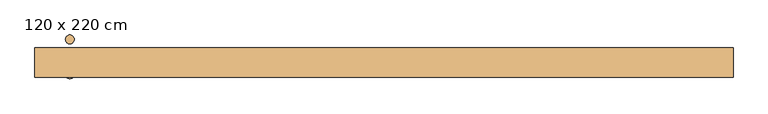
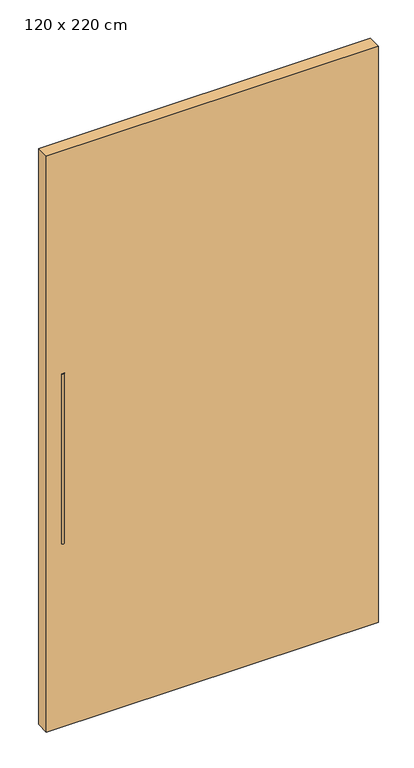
"""IFC4 building model written with IfcOpenShell, lengths in millimetres: door geometry, PUERTA ACCESO_PIVOT : 120 x 220 cm."""

from ifc_helpers import new_model, si_unit, point, frame, frame_2d, origin, origin_with_axes, place, context, project, spatial, polyline, circle_curve, trimmed, segment, composite_curve, outline, extrude, source, transform, mapped, element, save


def door_120_x_220_cm_93c824b4(model_context):
    return source(origin(), model_context, "Body", "SweptSolid", [
        extrude(outline(polyline([(-183.1334164, 70.0), (1016.8665836, 70.0), (1016.8665836, 20.0), (-183.1334164, 20.0), (-183.1334164, 70.0)])), origin_with_axes(), (0.0, 0.0, 1.0), 2200.0),
        extrude(outline(composite_curve([segment(trimmed(circle_curve(frame_2d((-123.1334164, 25.0)), 7.5172322), [point((-130.6506486, 25.0))], [point((-115.6161842, 25.0))], False, "CARTESIAN"), True, "CONTINUOUS"), segment(trimmed(circle_curve(frame_2d((-123.1334164, 25.0)), 7.5172322), [point((-115.6161842, 25.0))], [point((-130.6506486, 25.0))], False, "CARTESIAN"), True, "CONTINUOUS")], self_intersect=False)), frame((0.0, 0.0, 700.0), z_axis=(0.0, 0.0, 1.0), x_axis=(1.0, 0.0, 0.0)), (0.0, 0.0, 1.0), 650.0),
        extrude(outline(composite_curve([segment(trimmed(circle_curve(frame_2d((-123.1334164, 85.0)), 7.5172322), [point((-130.6506486, 85.0))], [point((-115.6161842, 85.0))], False, "CARTESIAN"), True, "CONTINUOUS"), segment(trimmed(circle_curve(frame_2d((-123.1334164, 85.0)), 7.5172322), [point((-115.6161842, 85.0))], [point((-130.6506486, 85.0))], False, "CARTESIAN"), True, "CONTINUOUS")], self_intersect=False)), frame((0.0, 0.0, 700.0), z_axis=(0.0, 0.0, 1.0), x_axis=(1.0, 0.0, 0.0)), (0.0, 0.0, 1.0), 650.0),
    ])


if __name__ == "__main__":
    model = new_model("IFC4")
    model_context = context("Model", 3, world=origin())
    ifc_project = project(units=[si_unit("LENGTHUNIT", "METRE", prefix="MILLI")], contexts=[model_context])
    site = spatial("IfcSite", under=ifc_project)
    building = spatial("IfcBuilding", under=site)
    placement = place(None, origin())
    door_120_x_220_cm_shape = door_120_x_220_cm_93c824b4(model_context)
    element("IfcDoor", 1, ObjectType="PUERTA ACCESO_PIVOT : 120 x 220 cm", at=placement, inside=building, context=model_context, shape_type="MappedRepresentation", body=[
        mapped(door_120_x_220_cm_shape, transform((0.0, 0.0, 0.0), x_axis=(1.0, 0.0, 0.0), y_axis=(0.0, 1.0, 0.0), z_axis=(0.0, 0.0, 1.0))),
    ])
    save(model, "model.ifc")
